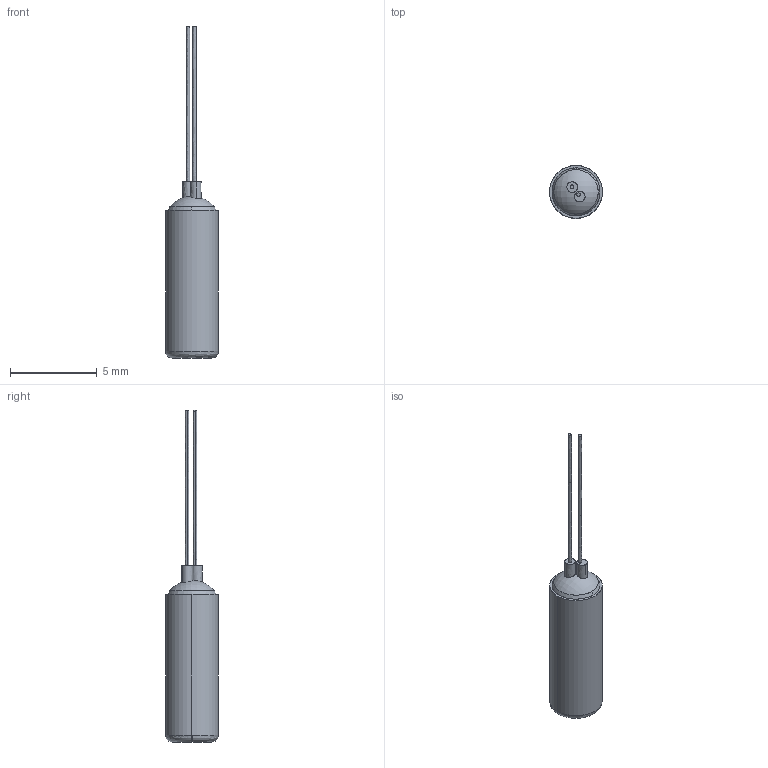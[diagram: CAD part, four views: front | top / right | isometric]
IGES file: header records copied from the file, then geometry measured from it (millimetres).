
Start section: SolidWorks IGES file using analytic representation for surfaces
Global section: file name: C:\Users\austin.mayabb\OneDrive - Lake Shore Cryotronics\SolidWorks Project\Defeatured Parts\Rox Final Defeatures\RX-102A-AA\RX-102A-AA.IGS; native system: SolidWorks 2020; preprocessor: SolidWorks 2020; author: austin.mayabb; date: 200511.112330; units: millimetre
Bounding box: 3.05 x 3.05 x 19.15 mm (x, y, z)
Surface area: 111.3 mm2 (no closed solid volume)
Topology: 0 solids, 0 shells, 21 faces, 338 edges, 338 vertices
Faces by surface type: bspline 14, revolution 7
